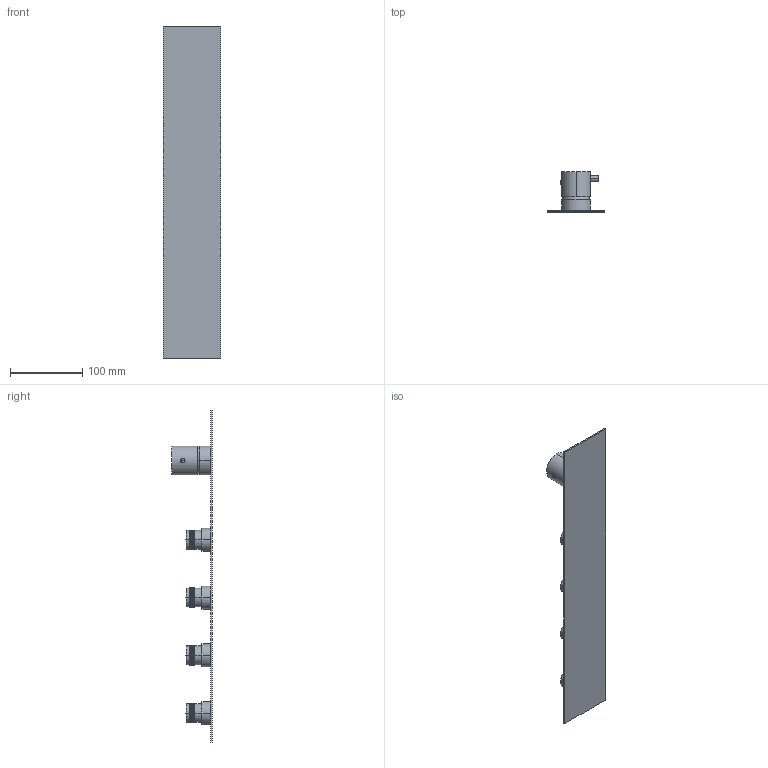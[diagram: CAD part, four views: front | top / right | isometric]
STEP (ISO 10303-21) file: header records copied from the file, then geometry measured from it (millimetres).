
FILE_DESCRIPTION((''),'2;1');
FILE_NAME('69000V421_SW0001','2025-11-25T15:04:11',('carloff'),(''),'CREO PARAMETRIC BY PTC INC, 2022014','CREO PARAMETRIC BY PTC INC, 2022014','');
FILE_SCHEMA(('CONFIG_CONTROL_DESIGN'));
Products named in the file (1): 69000V421_SW0001
Bounding box: 80 x 55.7 x 460 mm (x, y, z)
Volume: 227521.3 mm3; surface area: 96360.4 mm2
Topology: 1 solids, 1 shells, 6586 faces, 16410 edges, 10845 vertices
Faces by surface type: bspline 5122, cylinder 1402, plane 28, torus 22, sphere 10, cone 2
Entity records: 279482 total; most frequent: CARTESIAN_POINT 157537, ORIENTED_EDGE 32800, EDGE_CURVE 16400, VERTEX_POINT 10845, B_SPLINE_CURVE_WITH_KNOTS 10376, DIRECTION 9562, EDGE_LOOP 7617, FACE_OUTER_BOUND 6586
